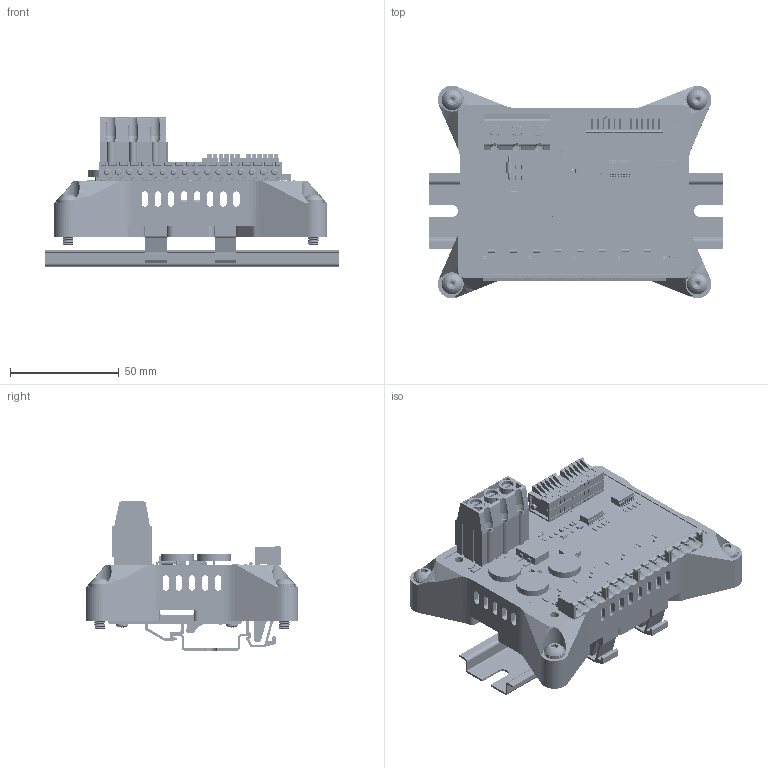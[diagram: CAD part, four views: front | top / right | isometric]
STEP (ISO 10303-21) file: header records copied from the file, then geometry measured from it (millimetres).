
FILE_DESCRIPTION (( 'STEP AP214' ), '1' );
FILE_NAME ('idtIOM_HSPWS_3A_rev01.STEP', '2026-08-02T11:04:45', ( '' ), ( '' ), 'SwSTEP 2.0', 'SolidWorks 2022', '' );
FILE_SCHEMA (( 'AUTOMOTIVE_DESIGN' ));
Length unit declared in the file: millimetre
Products named in the file (10): plain washer grade c_din_Washer DIN 126 - 5.5; idtIOM_AltTabanFanlı^idtIOM_HSPWS_3A_rev01; pan head cross recess screw_iso_ISO 7045 - M3 x 10 - Z - 10N; nsyamrd15357sb; idtIOM_HSPWS_3A_rev01_MainPCB; Parça98^idtIOM_HSPWS_3A_rev01; idtIOM_HSPWS_3A_rev01_Klemens; Suport_DIN; idtIOM_HSPWS_3A_rev01; socket button head screw_iso_ISO 7380 - M5 x 20 - 20S
Assembly tree (19 placements, depth 2):
  idtIOM_HSPWS_3A_rev01
    idtIOM_HSPWS_3A_rev01_MainPCB
    idtIOM_HSPWS_3A_rev01_Klemens
    Parça98^idtIOM_HSPWS_3A_rev01
    plain washer grade c_din_Washer DIN 126 - 5.5  x4
    idtIOM_AltTabanFanlı^idtIOM_HSPWS_3A_rev01
    socket button head screw_iso_ISO 7380 - M5 x 20 - 20S  x4
    Suport_DIN  x2
    nsyamrd15357sb
    pan head cross recess screw_iso_ISO 7045 - M3 x 10 - Z - 10N  x4
Bounding box: 135 x 97.59 x 68.46 mm (x, y, z)
Volume: 149107.3 mm3; surface area: 115369.3 mm2
Topology: 414 solids, 414 shells, 8241 faces, 21191 edges, 13852 vertices
Faces by surface type: plane 5690, cylinder 1802, cone 591, torus 69, bspline 49, sphere 40
Entity records: 304799 total; most frequent: CARTESIAN_POINT 44013, ORIENTED_EDGE 38366, DIRECTION 36873, EDGE_CURVE 19183, LINE 14553, VECTOR 14553, VERTEX_POINT 12609, AXIS2_PLACEMENT_3D 11160
